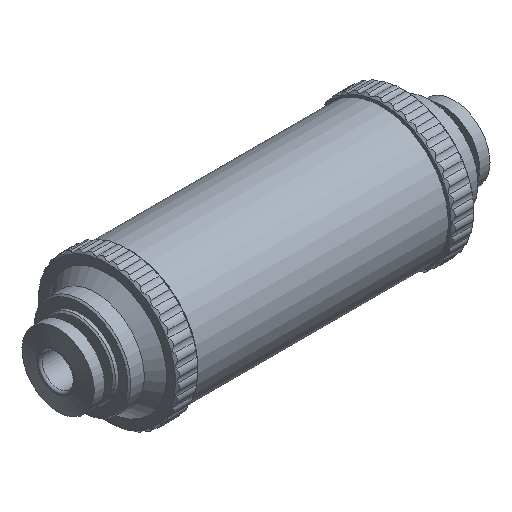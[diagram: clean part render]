
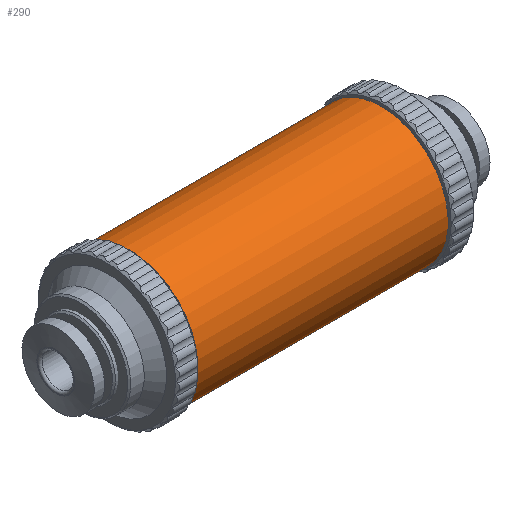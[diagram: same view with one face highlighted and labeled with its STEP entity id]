
A CAD part, isometric view. The second image highlights one B-rep face of the part: STEP entity #290.
In plain terms, the highlighted cylindrical face has radius 9 mm (diameter 18 mm), a full revolution.
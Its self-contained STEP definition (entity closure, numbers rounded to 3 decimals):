
#290=ADVANCED_FACE('',(#534,#535),#536,.T.);
#534=FACE_OUTER_BOUND('',#1040,.T.);
#535=FACE_OUTER_BOUND('',#1041,.T.);
#536=CYLINDRICAL_SURFACE('',#1042,9.0);
#1040=EDGE_LOOP('',(#1914));
#1041=EDGE_LOOP('',(#1915));
#1042=AXIS2_PLACEMENT_3D('',#1916,#1917,#1918);
#1914=ORIENTED_EDGE('',*,*,#3486,.T.);
#1915=ORIENTED_EDGE('',*,*,#3487,.F.);
#1916=CARTESIAN_POINT('',(55.0,0.0,0.0));
#1917=DIRECTION('',(-1.0,0.0,0.0));
#1918=DIRECTION('',(0.0,0.0,-1.0));
#3486=EDGE_CURVE('',#4308,#4308,#4309,.T.);
#3487=EDGE_CURVE('',#4310,#4310,#4311,.T.);
#4308=VERTEX_POINT('',#8066);
#4309=CIRCLE('',#8067,9.0);
#4310=VERTEX_POINT('',#8068);
#4311=CIRCLE('',#8069,9.0);
#8066=CARTESIAN_POINT('',(10.7,0.0,-9.0));
#8067=AXIS2_PLACEMENT_3D('',#8484,#8485,#8486);
#8068=CARTESIAN_POINT('',(44.3,0.0,-9.0));
#8069=AXIS2_PLACEMENT_3D('',#8487,#8488,#8489);
#8484=CARTESIAN_POINT('',(10.7,0.0,0.0));
#8485=DIRECTION('',(1.0,0.0,0.0));
#8486=DIRECTION('',(0.0,0.0,-1.0));
#8487=CARTESIAN_POINT('',(44.3,0.0,0.0));
#8488=DIRECTION('',(1.0,0.0,0.0));
#8489=DIRECTION('',(0.0,0.0,-1.0));
